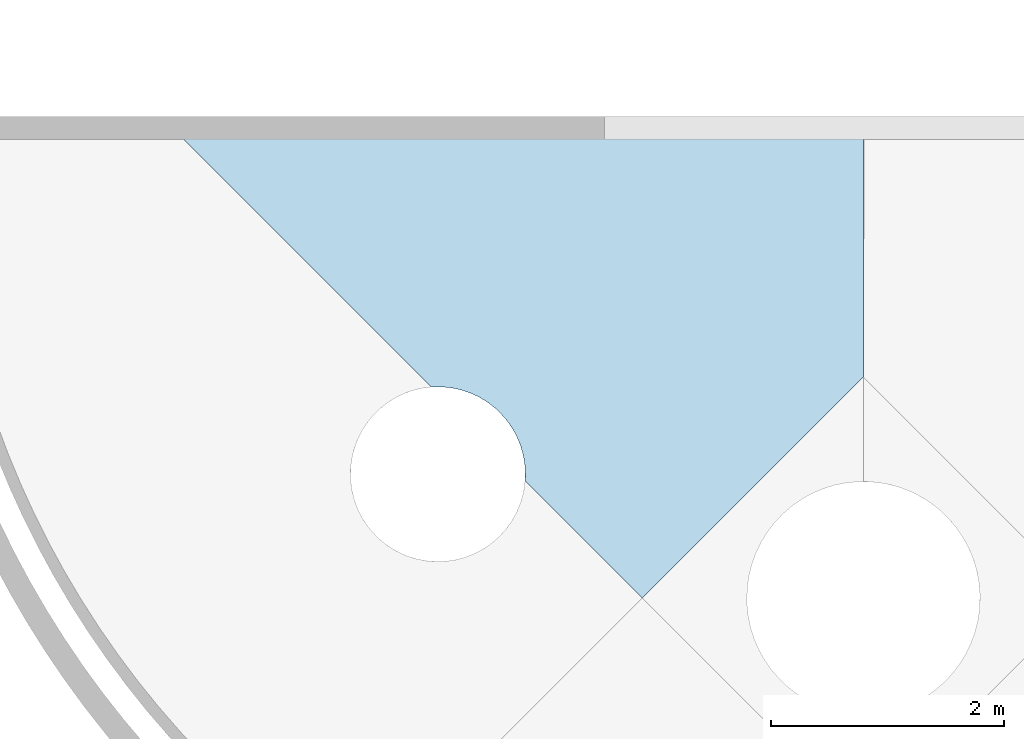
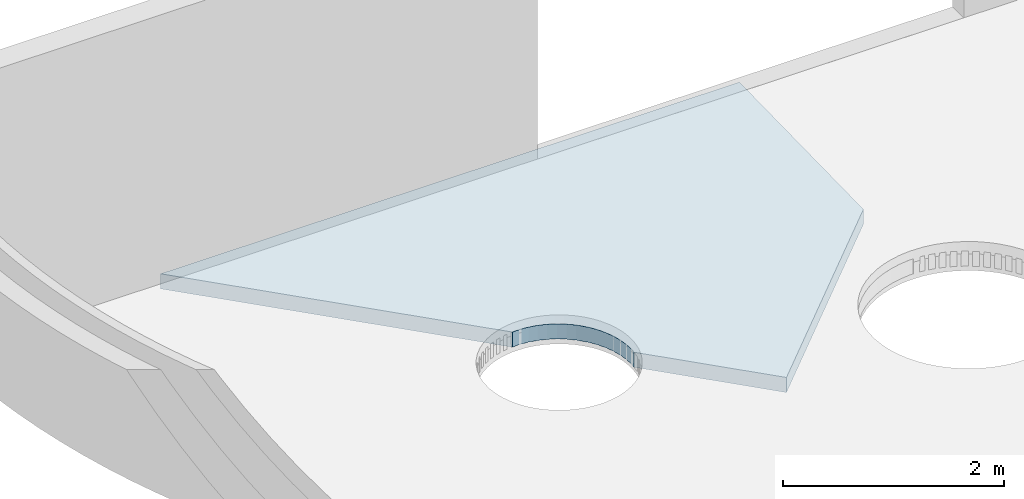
# One storey, part 3 of 10: 1 slab.
"""IFC4 building model written with IfcOpenShell, lengths in millimetres."""

from ifc_helpers import new_model, entity, si_unit, converted_unit, derived_unit, direction, frame, origin_with_axes, place, context, subcontext, project, spatial, polygons, material, constituent, constituent_set, type_object, element, save


model = new_model("IFC4")

# Units and contexts
model_context = context("Model", 3, precision=0.01, world=origin_with_axes(), true_north=direction((0.0, 1.0)))
body_context = subcontext(model_context, "Body", "Model", "MODEL_VIEW")
ifc_project = project(units=[si_unit("LENGTHUNIT", "METRE", prefix="MILLI"), si_unit("AREAUNIT", "SQUARE_METRE"), si_unit("VOLUMEUNIT", "CUBIC_METRE"), converted_unit("PLANEANGLEUNIT", "DEGREE", entity("IfcPlaneAngleMeasure", 0.0174532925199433), si_unit("PLANEANGLEUNIT", "RADIAN"), dimensions=[0, 0, 0, 0, 0, 0, 0]), converted_unit("TIMEUNIT", "Year", entity("IfcTimeMeasure", 31557600.0), si_unit("TIMEUNIT", "SECOND"), dimensions=[0, 0, 1, 0, 0, 0, 0]), si_unit("MASSUNIT", "GRAM", prefix="KILO"), si_unit("THERMODYNAMICTEMPERATUREUNIT", "DEGREE_CELSIUS"), si_unit("LUMINOUSINTENSITYUNIT", "LUMEN"), si_unit("ENERGYUNIT", "JOULE", prefix="MEGA"), derived_unit("THERMALCONDUCTANCEUNIT", [(si_unit("POWERUNIT", "WATT"), 1), (si_unit("LENGTHUNIT", "METRE"), -1), (si_unit("THERMODYNAMICTEMPERATUREUNIT", "KELVIN"), -1)]), derived_unit("SPECIFICHEATCAPACITYUNIT", [(si_unit("ENERGYUNIT", "JOULE"), 1), (si_unit("MASSUNIT", "GRAM", prefix="KILO"), -1), (si_unit("THERMODYNAMICTEMPERATUREUNIT", "KELVIN"), -1)]), derived_unit("MASSDENSITYUNIT", [(si_unit("MASSUNIT", "GRAM", prefix="KILO"), 1), (si_unit("VOLUMEUNIT", "CUBIC_METRE"), -1)])], contexts=[model_context])

# Site, building, storey
site_placement = place(None, origin_with_axes())
site = spatial("IfcSite", under=ifc_project, at=site_placement, Name="Exteriér", CompositionType="ELEMENT")
building_placement = place(site_placement, origin_with_axes())
building = spatial("IfcBuilding", under=site, at=building_placement, Name="Univerzitní lezecké centrum", CompositionType="ELEMENT")
storey_placement = place(building_placement, frame((0.0, 0.0, 9600.000000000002), z_axis=(0.0, 0.0, 1.0), x_axis=(1.0, 0.0, 0.0)))
storey = spatial("IfcBuildingStorey", under=building, at=storey_placement, Name="4.NP", CompositionType="ELEMENT", Elevation=9600.0)

# Slab
ifc_material_1 = material(Name="TPO fólie ochranná")
ifc_constituent_1 = constituent(ifc_material_1, Name="TPO fólie ochranná")
ifc_material_2 = material(Name="Geotextilie 200 g/m2")
ifc_constituent_2 = constituent(ifc_material_2, Name="Geotextilie 200 g/m2")
ifc_material_3 = material(Name="Hydroizolace - TPO fólie")
ifc_constituent_3 = constituent(ifc_material_3, Name="Hydroizolace - TPO fólie")
ifc_material_4 = material(Name="Tepelná izolace - polystyren EPS podlahy")
ifc_constituent_4 = constituent(ifc_material_4, Name="Tepelná izolace - polystyren EPS podlahy")
ifc_constituent_set = constituent_set(constituents=[ifc_constituent_1, ifc_constituent_2, ifc_constituent_3, ifc_constituent_4], Name="!Podlaha spádovaná - terasy - TI + HI vrstva")
slab_type = type_object("IfcSlabType", Name="!Podlaha spádovaná - terasy - TI + HI vrstva 166", PredefinedType="ROOF")
slab_placement = place(storey_placement, frame((-992.3612132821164, -4439.702610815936, -300.0062110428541), z_axis=(0.0, 0.0, 1.0), x_axis=(1.0, 0.0, 0.0)))
element("IfcSlab", 1, at=slab_placement, inside=storey, type_object=slab_type, material=ifc_constituent_set, Name="S02", PredefinedType="ROOF", context=body_context, shape_type="Tessellation", body=[
    polygons([(3442.113318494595, 4140.013172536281, 248.8334601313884), (-2597.800301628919, 4140.013172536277, 248.8334601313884), (-270.6744605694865, 1812.887331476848, 202.2909433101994), (-192.3316572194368, 1815.971153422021, 202.352619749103), (-105.2990414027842, 1808.356789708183, 202.2003324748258), (-19.73888267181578, 1790.690041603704, 201.8469975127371), (63.19176460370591, 1763.209821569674, 201.297393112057), (142.3714056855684, 1726.287752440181, 200.5589517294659), (216.7292717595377, 1680.423141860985, 199.6416595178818), (285.2598002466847, 1626.236230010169, 198.5579212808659), (316.1480167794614, 1595.348015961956, 197.940156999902), (369.5534280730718, 1537.946081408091, 196.7921183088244), (420.5100274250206, 1466.980756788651, 195.3728118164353), (462.8835051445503, 1390.579574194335, 193.8447881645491), (496.100832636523, 1309.775728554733, 192.228711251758), (519.7128025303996, 1225.661953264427, 190.5464357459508), (533.4001034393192, 1139.37574283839, 188.8207115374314), (536.9776380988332, 1052.083970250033, 187.0748760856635), (533.6873322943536, 1008.525538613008, 186.2037074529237), (1542.212870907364, 0.0, 166.0331966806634), (3442.21286213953, 1899.999991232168, 204.033196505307), (3442.113320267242, 4140.013172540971, 246.8330601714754), (-2597.800301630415, 4140.013172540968, 246.8330601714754), (-270.6744605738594, 1812.887331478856, 200.2905433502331), (-192.3316572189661, 1815.971153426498, 200.3522197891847), (-105.2990413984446, 1808.35678971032, 200.1999325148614), (-19.73888266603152, 1790.690041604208, 199.8465975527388), (63.19176460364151, 1763.209821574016, 199.2969931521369), (142.3714056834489, 1726.28775244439, 198.5585517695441), (216.7292717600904, 1680.423141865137, 197.6412595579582), (285.2598002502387, 1626.236230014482, 196.5575213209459), (316.1480167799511, 1595.348015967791, 195.9397570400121), (369.553428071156, 1537.946081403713, 194.7917183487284), (420.5100274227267, 1466.980756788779, 193.3724118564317), (462.883505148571, 1390.579574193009, 191.8443882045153), (496.1008326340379, 1309.775728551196, 190.228311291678), (519.7128025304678, 1225.661953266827, 188.5460357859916), (533.4023134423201, 1139.361810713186, 186.8200329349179), (536.9776380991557, 1052.123962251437, 185.0752759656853), (533.68452355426, 1008.528347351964, 184.2033636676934), (1542.212870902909, -1.659117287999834e-09, 164.0327967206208), (3442.212863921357, 1899.999993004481, 202.0327965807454)], [[[1, 2, 3, 4, 5, 6, 7, 8, 9, 10, 11, 12, 13, 14, 15, 16, 17, 18, 19, 20, 21]], [[1, 22, 23, 2]], [[2, 23, 24, 3]], [[3, 24, 25, 4]], [[4, 25, 26, 5]], [[5, 26, 27, 6]], [[6, 27, 28, 7]], [[7, 28, 29, 8]], [[8, 29, 30, 9]], [[9, 30, 31, 10]], [[10, 31, 32, 11]], [[11, 32, 33, 12]], [[12, 33, 34, 13]], [[13, 34, 35, 14]], [[14, 35, 36, 15]], [[15, 36, 37, 16]], [[16, 37, 38, 17]], [[17, 38, 39, 18]], [[18, 39, 40, 19]], [[19, 40, 41, 20]], [[20, 41, 42, 21]], [[21, 42, 22, 1]], [[22, 42, 41, 40, 39, 38, 37, 36, 35, 34, 33, 32, 31, 30, 29, 28, 27, 26, 25, 24, 23]]], closed=True),
    polygons([(3442.212863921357, 1899.999993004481, 202.0327965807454), (3442.212865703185, 1899.999994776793, 200.0323966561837), (3442.113322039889, 4140.013172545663, 244.8326602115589), (3442.113320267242, 4140.013172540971, 246.8330601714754), (1542.212870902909, -1.659117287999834e-09, 164.0327967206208), (1542.212870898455, -3.317346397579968e-09, 162.0323967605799), (533.6817148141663, 1008.531156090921, 182.2030198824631), (536.9776380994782, 1052.16395425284, 183.0756758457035), (533.4045234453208, 1139.347878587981, 184.8193543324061), (519.712802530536, 1225.661953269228, 186.5456358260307), (496.1008326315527, 1309.77572854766, 188.2279113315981), (462.8835051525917, 1390.579574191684, 189.8439882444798), (420.5100274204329, 1466.980756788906, 191.3720118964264), (369.5534280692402, 1537.946081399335, 192.7913183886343), (316.1480167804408, 1595.348015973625, 193.9393570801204), (285.2598002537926, 1626.236230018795, 194.5571213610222), (216.7292717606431, 1680.42314186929, 195.6408595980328), (142.3714056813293, 1726.2877524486, 196.5581518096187), (63.19176460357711, 1763.209821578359, 197.2965931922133), (-19.73888266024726, 1790.690041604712, 197.8461975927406), (-105.2990413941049, 1808.356789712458, 198.1995325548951), (-192.3316572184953, 1815.971153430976, 198.3518198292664), (-270.6744605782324, 1812.887331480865, 198.2901433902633), (-2597.80030163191, 4140.013172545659, 244.8326602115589), (-2597.800301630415, 4140.013172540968, 246.8330601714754), (-270.6744605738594, 1812.887331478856, 200.2905433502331), (-192.3316572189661, 1815.971153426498, 200.3522197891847), (-105.2990413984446, 1808.35678971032, 200.1999325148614), (-19.73888266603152, 1790.690041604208, 199.8465975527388), (63.19176460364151, 1763.209821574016, 199.2969931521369), (142.3714056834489, 1726.28775244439, 198.5585517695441), (216.7292717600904, 1680.423141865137, 197.6412595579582), (285.2598002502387, 1626.236230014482, 196.5575213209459), (316.1480167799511, 1595.348015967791, 195.9397570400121), (369.553428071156, 1537.946081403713, 194.7917183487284), (420.5100274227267, 1466.980756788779, 193.3724118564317), (462.883505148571, 1390.579574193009, 191.8443882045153), (496.1008326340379, 1309.775728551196, 190.228311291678), (519.7128025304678, 1225.661953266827, 188.5460357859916), (533.4023134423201, 1139.361810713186, 186.8200329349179), (536.9776380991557, 1052.123962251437, 185.0752759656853), (533.68452355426, 1008.528347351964, 184.2033636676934)], [[[1, 2, 3, 4]], [[5, 6, 2, 1]], [[3, 2, 6, 7, 8, 9, 10, 11, 12, 13, 14, 15, 16, 17, 18, 19, 20, 21, 22, 23, 24]], [[4, 3, 24, 25]], [[4, 25, 26, 27, 28, 29, 30, 31, 32, 33, 34, 35, 36, 37, 38, 39, 40, 41, 42, 5, 1]], [[42, 7, 6, 5]], [[41, 8, 7, 42]], [[40, 9, 8, 41]], [[39, 10, 9, 40]], [[38, 11, 10, 39]], [[37, 12, 11, 38]], [[36, 13, 12, 37]], [[35, 14, 13, 36]], [[34, 15, 14, 35]], [[33, 16, 15, 34]], [[32, 17, 16, 33]], [[31, 18, 17, 32]], [[30, 19, 18, 31]], [[29, 20, 19, 30]], [[28, 21, 20, 29]], [[27, 22, 21, 28]], [[26, 23, 22, 27]], [[25, 24, 23, 26]]], closed=True),
    polygons([(3442.212865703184, 1899.999994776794, 200.0323966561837), (3442.212867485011, 1899.999996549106, 198.031996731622), (3442.113323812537, 4140.013172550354, 242.8322602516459), (3442.113322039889, 4140.013172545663, 244.8326602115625), (1542.212870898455, -3.316458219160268e-09, 162.0323967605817), (1542.212870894, -4.974687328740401e-09, 160.031996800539), (533.6789060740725, 1008.533964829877, 180.2026760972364), (536.9776380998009, 1052.203946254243, 181.0760757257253), (533.4067334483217, 1139.333946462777, 182.8186757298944), (519.7128025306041, 1225.661953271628, 184.5452358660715), (496.1008326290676, 1309.775728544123, 186.2275113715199), (462.8835051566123, 1390.579574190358, 187.843588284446), (420.5100274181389, 1466.980756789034, 189.3716119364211), (369.5534280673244, 1537.946081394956, 190.7909184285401), (316.1480167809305, 1595.348015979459, 191.9389571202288), (285.2598002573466, 1626.236230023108, 192.5567214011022), (216.7292717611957, 1680.423141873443, 193.6404596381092), (142.3714056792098, 1726.28775245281, 194.5577518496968), (63.19176460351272, 1763.209821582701, 195.2961932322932), (-19.738882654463, 1790.690041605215, 195.8457976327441), (-105.2990413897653, 1808.356789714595, 196.1991325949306), (-192.3316572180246, 1815.971153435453, 196.3514198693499), (-270.6744605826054, 1812.887331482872, 196.2897434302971), (-2597.800301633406, 4140.013172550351, 242.8322602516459), (-2597.80030163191, 4140.013172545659, 244.8326602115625), (-270.6744605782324, 1812.887331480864, 198.2901433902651), (-192.3316572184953, 1815.971153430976, 198.3518198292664), (-105.2990413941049, 1808.356789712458, 198.1995325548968), (-19.73888266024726, 1790.690041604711, 197.8461975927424), (63.19176460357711, 1763.209821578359, 197.2965931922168), (142.3714056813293, 1726.2877524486, 196.5581518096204), (216.7292717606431, 1680.42314186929, 195.6408595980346), (285.2598002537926, 1626.236230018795, 194.557121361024), (316.1480167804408, 1595.348015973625, 193.9393570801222), (369.5534280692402, 1537.946081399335, 192.7913183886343), (420.5100274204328, 1466.980756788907, 191.3720118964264), (462.8835051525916, 1390.579574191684, 189.8439882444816), (496.1008326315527, 1309.77572854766, 188.2279113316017), (519.712802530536, 1225.661953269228, 186.5456358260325), (533.4045234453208, 1139.347878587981, 184.8193543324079), (536.9776380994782, 1052.16395425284, 183.0756758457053), (533.6817148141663, 1008.531156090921, 182.2030198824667)], [[[1, 2, 3, 4]], [[5, 6, 2, 1]], [[3, 2, 6, 7, 8, 9, 10, 11, 12, 13, 14, 15, 16, 17, 18, 19, 20, 21, 22, 23, 24]], [[4, 3, 24, 25]], [[4, 25, 26, 27, 28, 29, 30, 31, 32, 33, 34, 35, 36, 37, 38, 39, 40, 41, 42, 5, 1]], [[42, 7, 6, 5]], [[41, 8, 7, 42]], [[40, 9, 8, 41]], [[39, 10, 9, 40]], [[38, 11, 10, 39]], [[37, 12, 11, 38]], [[36, 13, 12, 37]], [[35, 14, 13, 36]], [[34, 15, 14, 35]], [[33, 16, 15, 34]], [[32, 17, 16, 33]], [[31, 18, 17, 32]], [[30, 19, 18, 31]], [[29, 20, 19, 30]], [[28, 21, 20, 29]], [[27, 22, 21, 28]], [[26, 23, 22, 27]], [[25, 24, 23, 26]]], closed=True),
    polygons([(3442.212867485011, 1899.999996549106, 198.031996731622), (3442.213010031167, 1900.000138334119, 38.0000025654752), (3442.113465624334, 4140.013172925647, 82.80026325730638), (3442.113323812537, 4140.013172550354, 242.8322602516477), (1542.212870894, -4.974687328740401e-09, 160.031996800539), (1542.212870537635, -1.376116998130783e-07, -2.039595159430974e-07), (533.4542068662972, 1008.758663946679, 20.17517307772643), (536.9776381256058, 1055.403306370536, 21.10806592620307), (533.5835336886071, 1138.219376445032, 22.76438732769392), (519.7128025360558, 1225.661953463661, 24.51323886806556), (496.1008324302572, 1309.775728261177, 26.19551436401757), (462.8835054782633, 1390.579574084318, 27.81159128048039), (420.510027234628, 1466.980756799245, 29.33961493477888), (369.5534279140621, 1537.946081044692, 30.75892141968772), (316.1480168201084, 1595.348016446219, 31.9069601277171), (285.2598005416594, 1626.236230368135, 32.52472440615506), (216.7292718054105, 1680.423142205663, 33.60846264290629), (142.3714055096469, 1726.287752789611, 34.52575485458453), (63.19176459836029, 1763.209821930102, 35.26419623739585), (-19.73888219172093, 1790.690041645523, 35.81380063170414), (-105.2990410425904, 1808.356789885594, 36.16713559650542), (-192.3316571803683, 1815.971153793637, 36.31942287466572), (-270.67446093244, 1812.88733164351, 36.25774643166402), (-2597.800301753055, 4140.013172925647, 82.80026325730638), (-2597.800301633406, 4140.013172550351, 242.8322602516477), (-270.6744605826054, 1812.887331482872, 196.2897434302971), (-192.3316572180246, 1815.971153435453, 196.3514198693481), (-105.2990413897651, 1808.356789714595, 196.1991325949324), (-19.738882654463, 1790.690041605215, 195.8457976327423), (63.19176460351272, 1763.209821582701, 195.296193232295), (142.3714056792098, 1726.28775245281, 194.5577518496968), (216.7292717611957, 1680.423141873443, 193.6404596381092), (285.2598002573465, 1626.236230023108, 192.5567214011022), (316.1480167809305, 1595.348015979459, 191.9389571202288), (369.5534280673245, 1537.946081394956, 190.7909184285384), (420.5100274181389, 1466.980756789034, 189.3716119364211), (462.8835051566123, 1390.579574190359, 187.8435882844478), (496.1008326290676, 1309.775728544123, 186.2275113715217), (519.7128025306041, 1225.661953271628, 184.5452358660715), (533.4067334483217, 1139.333946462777, 182.8186757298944), (536.9776380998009, 1052.203946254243, 181.0760757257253), (533.6789060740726, 1008.533964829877, 180.2026760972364)], [[[1, 2, 3, 4]], [[5, 6, 2, 1]], [[2, 6, 7, 8, 9, 10, 11, 12, 13, 14, 15, 16, 17, 18, 19, 20, 21, 22, 23, 24, 3]], [[4, 3, 24, 25]], [[4, 25, 26, 27, 28, 29, 30, 31, 32, 33, 34, 35, 36, 37, 38, 39, 40, 41, 42, 5, 1]], [[42, 7, 6, 5]], [[41, 8, 7, 42]], [[40, 9, 8, 41]], [[39, 10, 9, 40]], [[38, 11, 10, 39]], [[37, 12, 11, 38]], [[36, 13, 12, 37]], [[35, 14, 13, 36]], [[34, 15, 14, 35]], [[33, 16, 15, 34]], [[32, 17, 16, 33]], [[31, 18, 17, 32]], [[30, 19, 18, 31]], [[29, 20, 19, 30]], [[28, 21, 20, 29]], [[27, 22, 21, 28]], [[26, 23, 22, 27]], [[25, 24, 23, 26]]], closed=True),
])

save(model, "model.ifc")
